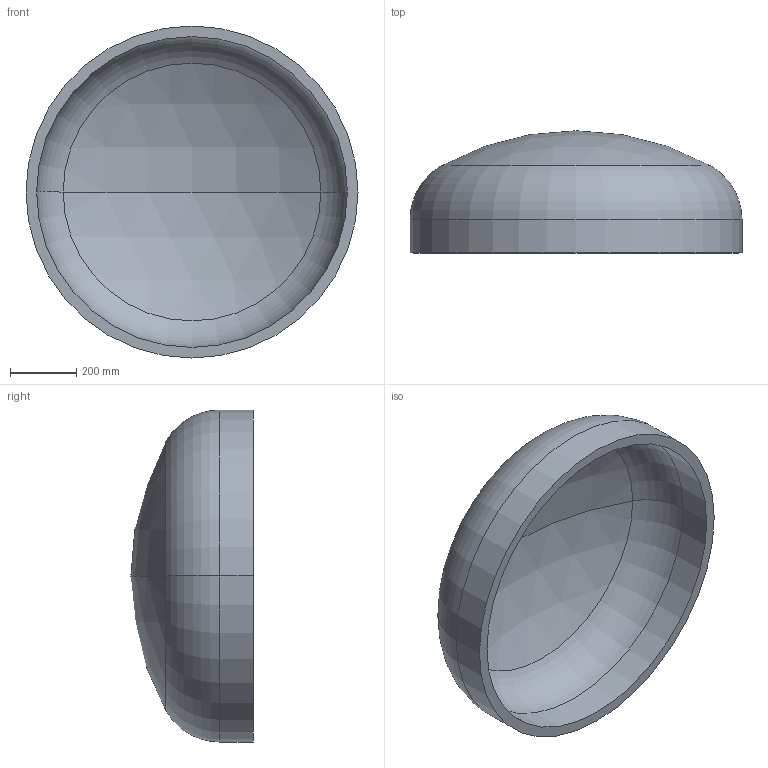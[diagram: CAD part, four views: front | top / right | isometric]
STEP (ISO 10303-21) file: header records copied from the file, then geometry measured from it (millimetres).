
FILE_DESCRIPTION (( 'STEP AP203' ), '1' );
FILE_NAME ('DIN 28013 Korbbogenform_-_Boden DIN 28013 - 1000 x 100 - I - s=32.step', '2016-07-01T08:47:02', ( '' ), ( '' ), 'SwSTEP 2.0', 'SolidWorks 2013', '' );
FILE_SCHEMA (( 'CONFIG_CONTROL_DESIGN' ));
Length unit declared in the file: millimetre
Products named in the file (1): DIN 28013 Korbbogenform_-_Boden DIN 28013 - 1000 x 100 - I - s=32
Bounding box: 1000 x 368.04 x 1000 mm (x, y, z)
Volume: 43160619.5 mm3; surface area: 2796996.6 mm2
Topology: 1 solids, 1 shells, 13 faces, 24 edges, 14 vertices
Faces by surface type: torus 4, cylinder 4, sphere 4, plane 1
Entity records: 407 total; most frequent: DIRECTION 72, CARTESIAN_POINT 52, ORIENTED_EDGE 48, AXIS2_PLACEMENT_3D 34, EDGE_CURVE 24, CIRCLE 20, VERTEX_POINT 14, EDGE_LOOP 14
